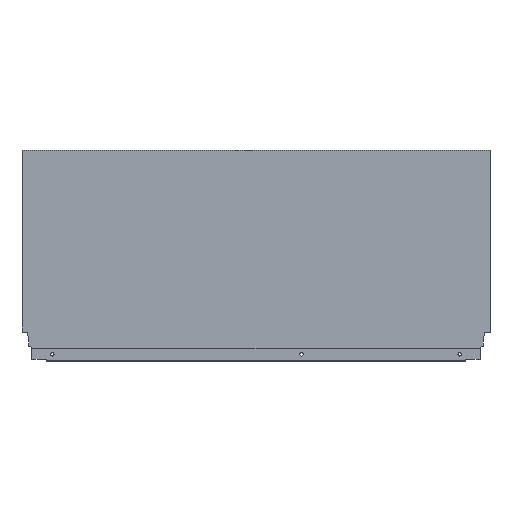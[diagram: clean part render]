
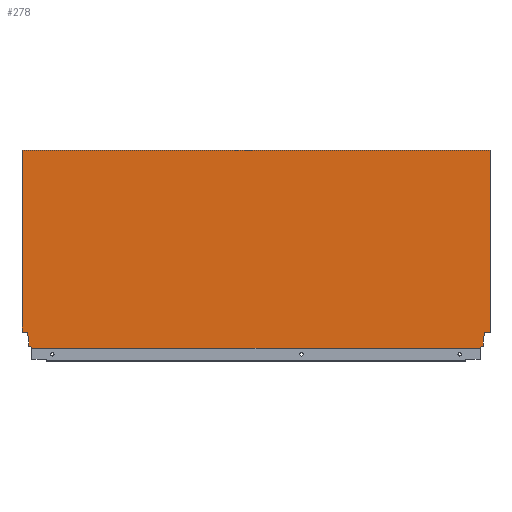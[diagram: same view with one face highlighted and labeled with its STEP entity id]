
A CAD part, top view. The second image highlights one B-rep face of the part: STEP entity #278.
In plain terms, the highlighted planar face has unit normal (0, 0, 1).
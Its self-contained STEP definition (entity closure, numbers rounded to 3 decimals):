
#92 = EDGE_CURVE ( 'NONE', #1241, #1116, #396, .T. ) ;
#110 = EDGE_CURVE ( 'NONE', #1272, #1264, #371, .T. ) ;
#111 = EDGE_CURVE ( 'NONE', #1272, #1137, #363, .T. ) ;
#112 = EDGE_CURVE ( 'NONE', #1256, #1247, #359, .T. ) ;
#114 = EDGE_CURVE ( 'NONE', #1102, #1241, #355, .T. ) ;
#115 = EDGE_CURVE ( 'NONE', #1247, #1113, #353, .T. ) ;
#116 = EDGE_CURVE ( 'NONE', #1137, #1227, #351, .T. ) ;
#117 = EDGE_CURVE ( 'NONE', #1227, #1256, #349, .T. ) ;
#118 = EDGE_CURVE ( 'NONE', #1221, #1113, #347, .T. ) ;
#119 = EDGE_CURVE ( 'NONE', #1116, #1225, #345, .T. ) ;
#121 = EDGE_CURVE ( 'NONE', #1091, #1264, #343, .T. ) ;
#122 = EDGE_CURVE ( 'NONE', #1079, #1091, #341, .T. ) ;
#125 = EDGE_CURVE ( 'NONE', #1225, #1079, #339, .T. ) ;
#128 = AXIS2_PLACEMENT_3D ( 'NONE', #827, #819, #818 ) ;
#167 = EDGE_CURVE ( 'NONE', #1221, #1102, #310, .T. ) ;
#228 = CARTESIAN_POINT ( 'NONE',  ( -13.004, 0., 8. ) ) ;
#232 = CARTESIAN_POINT ( 'NONE',  ( -603.996, 0., 8. ) ) ;
#278 = ADVANCED_FACE ( 'NONE', ( #1503 ), #831, .T. ) ;
#306 = VECTOR ( 'NONE', #1050, 1000. ) ;
#310 = LINE ( 'NONE', #1095, #306 ) ;
#338 = VECTOR ( 'NONE', #1103, 1000. ) ;
#339 = LINE ( 'NONE', #1104, #338 ) ;
#340 = VECTOR ( 'NONE', #1105, 1000. ) ;
#341 = LINE ( 'NONE', #1106, #340 ) ;
#342 = VECTOR ( 'NONE', #1109, 1000. ) ;
#343 = LINE ( 'NONE', #1110, #342 ) ;
#344 = VECTOR ( 'NONE', #1114, 1000. ) ;
#345 = LINE ( 'NONE', #1115, #344 ) ;
#346 = VECTOR ( 'NONE', #1117, 1000. ) ;
#347 = LINE ( 'NONE', #1118, #346 ) ;
#348 = VECTOR ( 'NONE', #1121, 1000. ) ;
#349 = LINE ( 'NONE', #1122, #348 ) ;
#350 = VECTOR ( 'NONE', #1124, 1000. ) ;
#351 = LINE ( 'NONE', #1126, #350 ) ;
#352 = VECTOR ( 'NONE', #1127, 1000. ) ;
#353 = LINE ( 'NONE', #1129, #352 ) ;
#354 = VECTOR ( 'NONE', #1131, 1000. ) ;
#355 = LINE ( 'NONE', #1132, #354 ) ;
#358 = VECTOR ( 'NONE', #1138, 1000. ) ;
#359 = LINE ( 'NONE', #1139, #358 ) ;
#361 = VECTOR ( 'NONE', #1141, 1000. ) ;
#363 = LINE ( 'NONE', #1153, #361 ) ;
#365 = VECTOR ( 'NONE', #1145, 1000. ) ;
#371 = LINE ( 'NONE', #1146, #365 ) ;
#396 = LINE ( 'NONE', #1185, #401 ) ;
#401 = VECTOR ( 'NONE', #1184, 1000. ) ;
#594 = ORIENTED_EDGE ( 'NONE', *, *, #118, .T. ) ;
#595 = ORIENTED_EDGE ( 'NONE', *, *, #115, .F. ) ;
#596 = ORIENTED_EDGE ( 'NONE', *, *, #112, .F. ) ;
#597 = ORIENTED_EDGE ( 'NONE', *, *, #117, .F. ) ;
#598 = ORIENTED_EDGE ( 'NONE', *, *, #116, .F. ) ;
#599 = ORIENTED_EDGE ( 'NONE', *, *, #111, .F. ) ;
#600 = ORIENTED_EDGE ( 'NONE', *, *, #110, .T. ) ;
#601 = ORIENTED_EDGE ( 'NONE', *, *, #121, .F. ) ;
#602 = ORIENTED_EDGE ( 'NONE', *, *, #122, .F. ) ;
#603 = ORIENTED_EDGE ( 'NONE', *, *, #125, .F. ) ;
#604 = ORIENTED_EDGE ( 'NONE', *, *, #119, .F. ) ;
#605 = ORIENTED_EDGE ( 'NONE', *, *, #92, .F. ) ;
#606 = ORIENTED_EDGE ( 'NONE', *, *, #114, .F. ) ;
#607 = ORIENTED_EDGE ( 'NONE', *, *, #167, .F. ) ;
#725 = CARTESIAN_POINT ( 'NONE',  ( -608.1, 10.765, 8. ) ) ;
#733 = CARTESIAN_POINT ( 'NONE',  ( -609.94, 21.2, 8. ) ) ;
#737 = CARTESIAN_POINT ( 'NONE',  ( 0., 21.2, 8. ) ) ;
#744 = CARTESIAN_POINT ( 'NONE',  ( -608.1, 2.64, 8. ) ) ;
#746 = CARTESIAN_POINT ( 'NONE',  ( -8.9, 10.765, 8. ) ) ;
#750 = CARTESIAN_POINT ( 'NONE',  ( -617., 260.7, 8. ) ) ;
#759 = CARTESIAN_POINT ( 'NONE',  ( -603.996, 1.146, 8. ) ) ;
#769 = CARTESIAN_POINT ( 'NONE',  ( -7.06, 21.2, 8. ) ) ;
#770 = CARTESIAN_POINT ( 'NONE',  ( -617., 21.2, 8. ) ) ;
#776 = CARTESIAN_POINT ( 'NONE',  ( 0., 260.7, 8. ) ) ;
#781 = CARTESIAN_POINT ( 'NONE',  ( -13.004, 1.146, 8. ) ) ;
#788 = CARTESIAN_POINT ( 'NONE',  ( -8.9, 2.64, 8. ) ) ;
#818 = DIRECTION ( 'NONE',  ( 1., 0., 0. ) ) ;
#819 = DIRECTION ( 'NONE',  ( 0., 0., 1. ) ) ;
#827 = CARTESIAN_POINT ( 'NONE',  ( -617., 0., 8. ) ) ;
#831 = PLANE ( 'NONE',  #128 ) ;
#1050 = DIRECTION ( 'NONE',  ( 1., 0., 0. ) ) ;
#1079 = VERTEX_POINT ( 'NONE', #788 ) ;
#1091 = VERTEX_POINT ( 'NONE', #781 ) ;
#1095 = CARTESIAN_POINT ( 'NONE',  ( -617., 260.7, 8. ) ) ;
#1102 = VERTEX_POINT ( 'NONE', #776 ) ;
#1103 = DIRECTION ( 'NONE',  ( 0., -1., 0. ) ) ;
#1104 = CARTESIAN_POINT ( 'NONE',  ( -8.9, 10.765, 8. ) ) ;
#1105 = DIRECTION ( 'NONE',  ( -0.94, -0.342, 0. ) ) ;
#1106 = CARTESIAN_POINT ( 'NONE',  ( -8.9, 2.64, 8. ) ) ;
#1109 = DIRECTION ( 'NONE',  ( 0., -1., 0. ) ) ;
#1110 = CARTESIAN_POINT ( 'NONE',  ( -13.004, 1.146, 8. ) ) ;
#1113 = VERTEX_POINT ( 'NONE', #770 ) ;
#1114 = DIRECTION ( 'NONE',  ( -0.174, -0.985, 0. ) ) ;
#1115 = CARTESIAN_POINT ( 'NONE',  ( -7.06, 21.2, 8. ) ) ;
#1116 = VERTEX_POINT ( 'NONE', #769 ) ;
#1117 = DIRECTION ( 'NONE',  ( 0., -1., 0. ) ) ;
#1118 = CARTESIAN_POINT ( 'NONE',  ( -617., 0., 8. ) ) ;
#1121 = DIRECTION ( 'NONE',  ( 0., 1., 0. ) ) ;
#1122 = CARTESIAN_POINT ( 'NONE',  ( -608.1, 10.765, 8. ) ) ;
#1124 = DIRECTION ( 'NONE',  ( -0.94, 0.342, 0. ) ) ;
#1126 = CARTESIAN_POINT ( 'NONE',  ( -608.1, 2.64, 8. ) ) ;
#1127 = DIRECTION ( 'NONE',  ( -1., 0., 0. ) ) ;
#1129 = CARTESIAN_POINT ( 'NONE',  ( -622., 21.2, 8. ) ) ;
#1131 = DIRECTION ( 'NONE',  ( 0., -1., 0. ) ) ;
#1132 = CARTESIAN_POINT ( 'NONE',  ( 0., 0., 8. ) ) ;
#1137 = VERTEX_POINT ( 'NONE', #759 ) ;
#1138 = DIRECTION ( 'NONE',  ( -0.174, 0.985, 0. ) ) ;
#1139 = CARTESIAN_POINT ( 'NONE',  ( -609.94, 21.2, 8. ) ) ;
#1141 = DIRECTION ( 'NONE',  ( 0., 1., 0. ) ) ;
#1145 = DIRECTION ( 'NONE',  ( 1., 0., 0. ) ) ;
#1146 = CARTESIAN_POINT ( 'NONE',  ( -617., 0., 8. ) ) ;
#1153 = CARTESIAN_POINT ( 'NONE',  ( -603.996, 1.146, 8. ) ) ;
#1184 = DIRECTION ( 'NONE',  ( -1., 0., 0. ) ) ;
#1185 = CARTESIAN_POINT ( 'NONE',  ( 0., 21.2, 8. ) ) ;
#1221 = VERTEX_POINT ( 'NONE', #750 ) ;
#1225 = VERTEX_POINT ( 'NONE', #746 ) ;
#1227 = VERTEX_POINT ( 'NONE', #744 ) ;
#1241 = VERTEX_POINT ( 'NONE', #737 ) ;
#1247 = VERTEX_POINT ( 'NONE', #733 ) ;
#1256 = VERTEX_POINT ( 'NONE', #725 ) ;
#1264 = VERTEX_POINT ( 'NONE', #228 ) ;
#1272 = VERTEX_POINT ( 'NONE', #232 ) ;
#1364 = EDGE_LOOP ( 'NONE', ( #594, #595, #596, #597, #598, #599, #600, #601, #602, #603, #604, #605, #606, #607 ) ) ;
#1503 = FACE_OUTER_BOUND ( 'NONE', #1364, .T. ) ;
